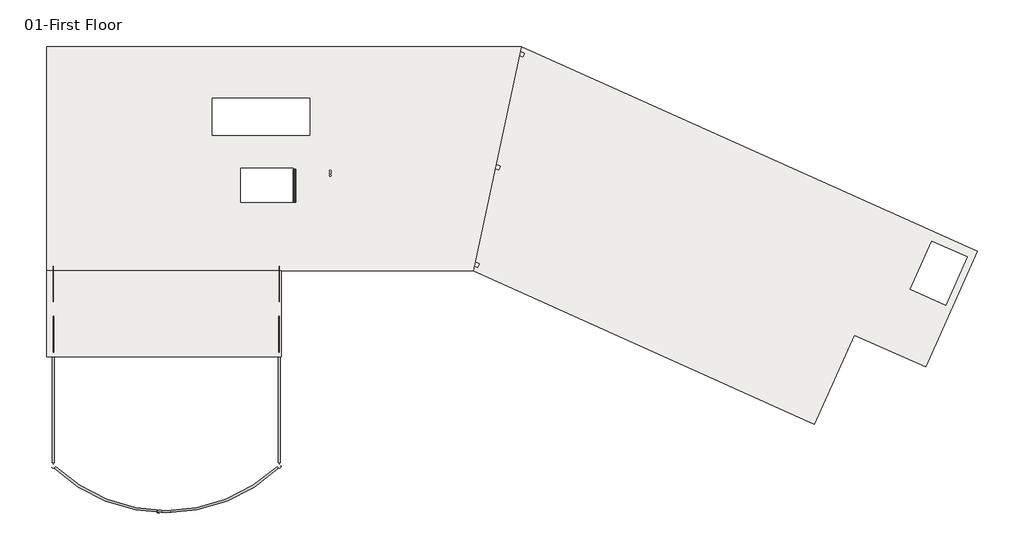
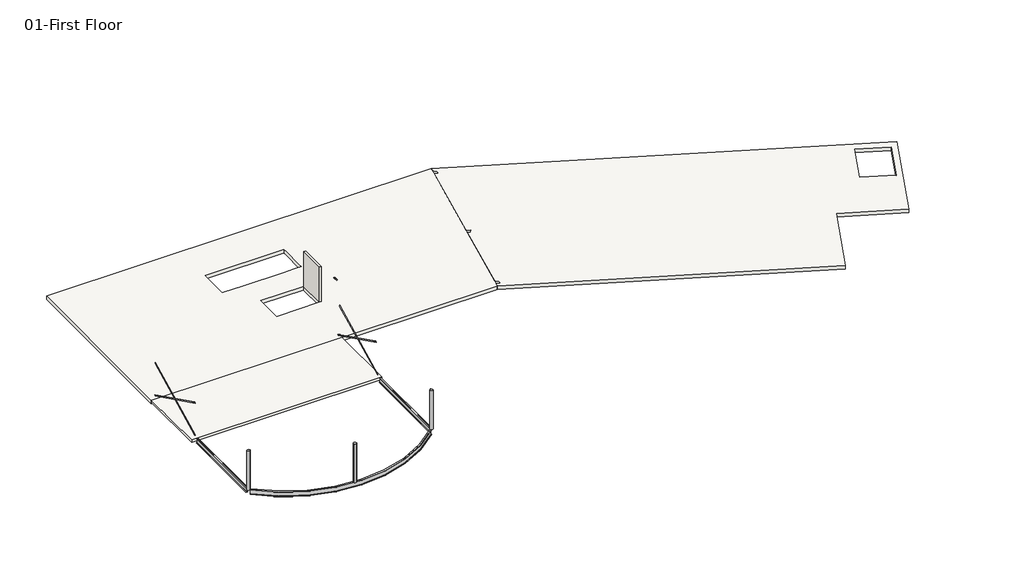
# One storey: 5 beams, 4 members, 3 columns, 3 slabs, 1 wall.
"""IFC4 building model written with IfcOpenShell, lengths in millimetres."""

from ifc_helpers import new_model, si_unit, frame, origin, place, context, project, spatial, polyline, circle_curve, outline, extrude, faceted_brep, transform, mapped, element, save
from ifc_brep_helpers import plane_surface, revolved_surface, advanced_brep
from components import w_shapes_w16x26_79f6515c, w_shapes_w16x26_bcd4aa5d, w_shapes_w16x26_ccd9a1e8, hss_round_column_hss10x_500_6a2b31e4, flat_bars_fl_3_8x4_8cd429a4, flat_bars_fl_3_8x4_80db56d9, flat_bars_fl_3_8x4_0a321cdc, flat_bars_fl_3_8x4_c289e923

model = new_model("IFC4")

# Units and contexts
model_context = context("Model", 3, world=origin())
ifc_project = project(units=[si_unit("LENGTHUNIT", "METRE", prefix="MILLI")], contexts=[model_context])

# Site, building, storey
site = spatial("IfcSite", under=ifc_project)
building = spatial("IfcBuilding", under=site)
storey = spatial("IfcBuildingStorey", under=building, Name="01-First Floor", Elevation=3352.8)

# Beams
placement = place(None, origin())
element("IfcBeam", 1, ObjectType="Concrete-Rectangular Beam : 12 x 24", at=placement, inside=storey, context=model_context, shape_type="SweptSolid", body=[
    extrude(outline(polyline([(152.4, -14147.8), (152.4, -13843.0), (6858.0, -13843.0), (6858.0, -14147.8), (152.4, -14147.8)])), frame((0.0, 0.0, 2743.2), z_axis=(0.0, 0.0, 1.0), x_axis=(1.0, 0.0, 0.0)), (0.0, 0.0, 1.0), 304.8),
])
element("IfcBeam", 2, ObjectType="Concrete-Rectangular Beam : 12 x 24", at=placement, inside=storey, context=model_context, shape_type="SweptSolid", body=[
    extrude(outline(polyline([(14846.3, -13843.0), (14846.3, -14147.8), (7162.8, -14147.8), (7162.8, -13843.0), (14846.3, -13843.0)])), frame((0.0, 0.0, 2743.2), z_axis=(0.0, 0.0, 1.0), x_axis=(1.0, 0.0, 0.0)), (0.0, 0.0, 1.0), 304.8),
])
w_shapes_w16x26_shape = w_shapes_w16x26_79f6515c(model_context)
element("IfcBeam", 3, ObjectType="W Shapes : W16X26", at=placement, inside=storey, context=model_context, shape_type="MappedRepresentation", body=[
    mapped(w_shapes_w16x26_shape, transform((14998.7, -27444.7, 3153.41), x_axis=(-0.7227923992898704, -0.691065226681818, 0.0), y_axis=(0.691065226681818, -0.7227923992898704, 0.0), z_axis=(0.0, 0.0, 1.0))),
])
w_shapes_w16x26_2_shape = w_shapes_w16x26_bcd4aa5d(model_context)
element("IfcBeam", 4, ObjectType="W Shapes : W16X26", at=placement, inside=storey, context=model_context, shape_type="MappedRepresentation", body=[
    mapped(w_shapes_w16x26_2_shape, transform((14998.7, -23723.6, 3153.41), x_axis=(0.0, -1.0, 0.0), y_axis=(1.0, 0.0, 0.0), z_axis=(0.0, 0.0, 1.0))),
])
w_shapes_w16x26_3_shape = w_shapes_w16x26_ccd9a1e8(model_context)
element("IfcBeam", 5, ObjectType="W Shapes : W16X26", at=placement, inside=storey, context=model_context, shape_type="MappedRepresentation", body=[
    mapped(w_shapes_w16x26_3_shape, transform((0.0, -23723.6, 3153.41), x_axis=(0.0, 1.0, 0.0), y_axis=(-1.0, 0.0, 0.0), z_axis=(0.0, 0.0, 1.0))),
])

# Columns
hss_round_column_hss10x_500_shape = hss_round_column_hss10x_500_6a2b31e4(model_context)
element("IfcColumn", 6, ObjectType="HSS Round-Column : HSS10X.500", at=placement, inside=storey, context=model_context, shape_type="MappedRepresentation", body=[
    mapped(hss_round_column_hss10x_500_shape, transform((0.0, -27444.7, 0.0), x_axis=(1.0, 0.0, 0.0), y_axis=(0.0, 1.0, 0.0), z_axis=(0.0, 0.0, 1.0))),
])
element("IfcColumn", 7, ObjectType="HSS Round-Column : HSS10X.500", at=placement, inside=storey, context=model_context, shape_type="MappedRepresentation", body=[
    mapped(hss_round_column_hss10x_500_shape, transform((7010.4, -30441.9, 0.0), x_axis=(1.0, 0.0, 0.0), y_axis=(0.0, 1.0, 0.0), z_axis=(0.0, 0.0, 1.0))),
])
element("IfcColumn", 8, ObjectType="HSS Round-Column : HSS10X.500", at=placement, inside=storey, context=model_context, shape_type="MappedRepresentation", body=[
    mapped(hss_round_column_hss10x_500_shape, transform((14998.7, -27444.7, 0.0), x_axis=(1.0, 0.0, 0.0), y_axis=(0.0, 1.0, 0.0), z_axis=(0.0, 0.0, 1.0))),
])

# Members
flat_bars_fl_3_8x4_shape = flat_bars_fl_3_8x4_8cd429a4(model_context)
element("IfcMember", 9, ObjectType="Flat Bars : FL 3/8X4", at=placement, inside=storey, context=model_context, shape_type="MappedRepresentation", body=[
    mapped(flat_bars_fl_3_8x4_shape, transform((14989.175, -16998.95, 4850.13), x_axis=(0.0, 0.8949563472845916, 0.44615371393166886), y_axis=(-1.0, 0.0, 0.0), z_axis=(0.0, -0.44615371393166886, 0.8949563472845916))),
])
flat_bars_fl_3_8x4_2_shape = flat_bars_fl_3_8x4_80db56d9(model_context)
element("IfcMember", 10, ObjectType="Flat Bars : FL 3/8X4", at=placement, inside=storey, context=model_context, shape_type="MappedRepresentation", body=[
    mapped(flat_bars_fl_3_8x4_2_shape, transform((14998.7, -16998.95, 4850.13), x_axis=(0.0, -0.8949563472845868, 0.4461537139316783), y_axis=(1.0, 0.0, 0.0), z_axis=(0.0, 0.4461537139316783, 0.8949563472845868))),
])
flat_bars_fl_3_8x4_3_shape = flat_bars_fl_3_8x4_0a321cdc(model_context)
element("IfcMember", 11, ObjectType="Flat Bars : FL 3/8X4", at=placement, inside=storey, context=model_context, shape_type="MappedRepresentation", body=[
    mapped(flat_bars_fl_3_8x4_3_shape, transform((9.525, -16998.95, 4850.13), x_axis=(0.0, 0.8949563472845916, 0.44615371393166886), y_axis=(-1.0, 0.0, 0.0), z_axis=(0.0, -0.44615371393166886, 0.8949563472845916))),
])
flat_bars_fl_3_8x4_4_shape = flat_bars_fl_3_8x4_c289e923(model_context)
element("IfcMember", 12, ObjectType="Flat Bars : FL 3/8X4", at=placement, inside=storey, context=model_context, shape_type="MappedRepresentation", body=[
    mapped(flat_bars_fl_3_8x4_4_shape, transform((0.0, -16998.95, 4850.13), x_axis=(0.0, -0.894956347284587, 0.44615371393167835), y_axis=(1.0, 0.0, 0.0), z_axis=(0.0, 0.44615371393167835, 0.894956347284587))),
])

# Slabs
element("IfcSlab", 13, ObjectType="RC Composite Slab 8\"", at=placement, inside=storey, context=model_context, shape_type="SweptSolid", body=[
    extrude(outline(polyline([(15151.1, -20154.9), (-457.2, -20154.9), (-457.2, -14452.6), (15151.1, -14452.6), (15151.1, -20154.9)])), frame((0.0, 0.0, 3149.6), z_axis=(0.0, 0.0, 1.0), x_axis=(1.0, 0.0, 0.0)), (0.0, 0.0, 1.0), 203.2),
])
element("IfcSlab", 14, ObjectType="RC Slab 12\"", at=placement, inside=storey, context=model_context, shape_type="AdvancedBrep", body=[
    advanced_brep(
    [(-457.2, 457.2, 3048.0), (31098.7387393, 457.2, 3048.0), (27903.7815965, -14452.6, 3048.0), (-457.2, -14452.6, 3048.0), (17030.7, -2984.5, 3048.0), (10553.7, -2984.5, 3048.0), (10553.7, -5422.9, 3048.0), (10858.5, -5422.9, 3048.0), (17030.7, -5422.9, 3048.0), (17030.7, -5118.1, 3048.0), (17030.7, -3289.3, 3048.0), (18347.8020543, -8109.4381113, 3048.0), (18449.4020543, -8109.4381113, 3048.0), (18347.8020543, -7957.0381113, 3048.0), (18449.4020543, -7957.0381113, 3048.0), (18347.8020543, -7804.6381113, 3048.0), (18449.4020543, -7804.6381113, 3048.0), (15951.2, -7633.3081651, 3048.0), (12446.0, -7633.3081651, 3048.0), (12446.0, -7683.5, 3048.0), (12446.0, -9893.3, 3048.0), (15951.2, -9893.3, 3048.0), (15951.2, -7683.5, 3048.0), (31098.7387393, 457.2, 3352.8), (-457.2, 457.2, 3352.8), (-457.2, -14452.6, 3352.8), (15151.1, -14452.6, 3352.8), (27903.7815965, -14452.6, 3352.8), (10553.7, -2984.5, 3352.8), (17030.7, -2984.5, 3352.8), (17030.7, -3289.3, 3352.8), (17030.7, -5118.1, 3352.8), (17030.7, -5422.9, 3352.8), (16522.7, -5422.9, 3352.8), (15608.3, -5422.9, 3352.8), (14389.1, -5422.9, 3352.8), (13474.7, -5422.9, 3352.8), (12242.8, -5422.9, 3352.8), (11328.4, -5422.9, 3352.8), (10553.7, -5422.9, 3352.8), (18449.4020543, -8109.4381113, 3352.8), (18347.8020543, -8109.4381113, 3352.8), (18449.4020543, -7957.0381113, 3352.8), (18347.8020543, -7957.0381113, 3352.8), (18449.4020543, -7804.6381113, 3352.8), (18347.8020543, -7804.6381113, 3352.8), (12446.0, -7633.3081651, 3352.8), (15951.2, -7633.3081651, 3352.8), (15951.2, -7683.5, 3352.8), (15951.2, -9893.3, 3352.8), (12446.0, -9893.3, 3352.8), (12446.0, -7683.5, 3352.8), (-457.2, -14452.6, 3149.6)],
    [
        (0, 1),
        (1, 2),
        (2, 3),
        (3, 0),
        (4, 5),
        (5, 6),
        (6, 7),
        (7, 8),
        (8, 9),
        (9, 10),
        (10, 4),
        (11, 12, circle_curve(frame((18398.6020543, -8109.4381113, 3048.0), z_axis=(0.0, 0.0, 1.0), x_axis=(1.0, 0.0, 0.0)), 50.8)),
        (12, 11, circle_curve(frame((18398.6020543, -8109.4381113, 3048.0), z_axis=(0.0, 0.0, 1.0), x_axis=(1.0, 0.0, 0.0)), 50.8)),
        (13, 14, circle_curve(frame((18398.6020543, -7957.0381113, 3048.0), z_axis=(0.0, 0.0, 1.0), x_axis=(1.0, 0.0, 0.0)), 50.8)),
        (14, 13, circle_curve(frame((18398.6020543, -7957.0381113, 3048.0), z_axis=(0.0, 0.0, 1.0), x_axis=(1.0, 0.0, 0.0)), 50.8)),
        (15, 16, circle_curve(frame((18398.6020543, -7804.6381113, 3048.0), z_axis=(0.0, 0.0, 1.0), x_axis=(1.0, 0.0, 0.0)), 50.8)),
        (16, 15, circle_curve(frame((18398.6020543, -7804.6381113, 3048.0), z_axis=(0.0, 0.0, 1.0), x_axis=(1.0, 0.0, 0.0)), 50.8)),
        (17, 18),
        (18, 19),
        (19, 20),
        (20, 21),
        (21, 22),
        (22, 17),
        (23, 24),
        (24, 25),
        (25, 26),
        (26, 27),
        (27, 23),
        (28, 29),
        (29, 30),
        (30, 31),
        (31, 32),
        (32, 33),
        (33, 34),
        (34, 35),
        (35, 36),
        (36, 37),
        (37, 38),
        (38, 39),
        (39, 28),
        (40, 41, circle_curve(frame((18398.6020543, -8109.4381113, 3352.8), z_axis=(0.0, 0.0, -1.0), x_axis=(1.0, 0.0, 0.0)), 50.8)),
        (41, 40, circle_curve(frame((18398.6020543, -8109.4381113, 3352.8), z_axis=(0.0, 0.0, -1.0), x_axis=(1.0, 0.0, 0.0)), 50.8)),
        (42, 43, circle_curve(frame((18398.6020543, -7957.0381113, 3352.8), z_axis=(0.0, 0.0, -1.0), x_axis=(1.0, 0.0, 0.0)), 50.8)),
        (43, 42, circle_curve(frame((18398.6020543, -7957.0381113, 3352.8), z_axis=(0.0, 0.0, -1.0), x_axis=(1.0, 0.0, 0.0)), 50.8)),
        (44, 45, circle_curve(frame((18398.6020543, -7804.6381113, 3352.8), z_axis=(0.0, 0.0, -1.0), x_axis=(1.0, 0.0, 0.0)), 50.8)),
        (45, 44, circle_curve(frame((18398.6020543, -7804.6381113, 3352.8), z_axis=(0.0, 0.0, -1.0), x_axis=(1.0, 0.0, 0.0)), 50.8)),
        (46, 47),
        (47, 48),
        (48, 49),
        (49, 50),
        (50, 51),
        (51, 46),
        (0, 24),
        (23, 1),
        (27, 2),
        (25, 52),
        (52, 3),
        (4, 29),
        (28, 5),
        (39, 6),
        (32, 8),
        (17, 47),
        (46, 18),
        (50, 20),
        (49, 21),
        (11, 41),
        (40, 12),
        (13, 43),
        (42, 14),
        (15, 45),
        (44, 16),
    ],
    [
        plane_surface(frame((0.0, 457.2, 3048.0), z_axis=(0.0, 0.0, -1.0), x_axis=(1.0, 0.0, 0.0))),
        plane_surface(frame((0.0, 457.2, 3352.8), z_axis=(0.0, 0.0, 1.0), x_axis=(-1.0, 0.0, 0.0))),
        plane_surface(frame((-457.2, 457.2, 3048.0), z_axis=(0.0, 1.0, 0.0), x_axis=(0.0, 0.0, 1.0))),
        plane_surface(frame((31098.7387393, 457.2, 3048.0), z_axis=(0.9778024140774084, -0.2095290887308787, 0.0), x_axis=(0.0, 0.0, 1.0))),
        plane_surface(frame((27903.7815965, -14452.6, 3048.0), z_axis=(0.0, -1.0, 0.0), x_axis=(0.0, 0.0, 1.0))),
        plane_surface(frame((-457.2, -14452.6, 3048.0), z_axis=(-1.0, 0.0, 0.0), x_axis=(0.0, 0.0, 1.0))),
        plane_surface(frame((17030.7, -2984.5, 4572.0), z_axis=(0.0, -1.0, 0.0), x_axis=(0.0, 0.0, -1.0))),
        plane_surface(frame((10553.7, -2984.5, 4572.0), z_axis=(1.0, 0.0, 0.0), x_axis=(0.0, 0.0, -1.0))),
        plane_surface(frame((10553.7, -5422.9, 4572.0), z_axis=(0.0, 1.0, 0.0), x_axis=(0.0, 0.0, -1.0))),
        plane_surface(frame((17030.7, -5422.9, 4572.0), z_axis=(-1.0, 0.0, 0.0), x_axis=(0.0, 0.0, -1.0))),
        plane_surface(frame((15951.2, -7633.3081651, 4572.0), z_axis=(0.0, -1.0, 0.0), x_axis=(0.0, 0.0, -1.0))),
        plane_surface(frame((12446.0, -7633.3081651, 4572.0), z_axis=(1.0, 0.0, 0.0), x_axis=(0.0, 0.0, -1.0))),
        plane_surface(frame((12446.0, -9893.3, 4572.0), z_axis=(0.0, 1.0, 0.0), x_axis=(0.0, 0.0, -1.0))),
        plane_surface(frame((15951.2, -9893.3, 4572.0), z_axis=(-1.0, 0.0, 0.0), x_axis=(0.0, 0.0, -1.0))),
        revolved_surface(polyline([(18449.4020543, -8109.4381113, 3352.8), (18449.4020543, -8109.4381113, 3048.0)]), (18398.6020543, -8109.4381113, 2743.2), (0.0, 0.0, 1.0)),
        revolved_surface(polyline([(18449.4020543, -7957.0381113, 3352.8), (18449.4020543, -7957.0381113, 3048.0)]), (18398.6020543, -7957.0381113, 2743.2), (0.0, 0.0, 1.0)),
        revolved_surface(polyline([(18449.4020543, -7804.6381113, 3352.8), (18449.4020543, -7804.6381113, 3048.0)]), (18398.6020543, -7804.6381113, 2743.2), (0.0, 0.0, 1.0)),
    ],
    [
        (0, [[1, 2, 3, 4], [5, 6, 7, 8, 9, 10, 11], [12, 13], [14, 15], [16, 17], [18, 19, 20, 21, 22, 23]]),
        (1, [[24, 25, 26, 27, 28], [29, 30, 31, 32, 33, 34, 35, 36, 37, 38, 39, 40], [41, 42], [43, 44], [45, 46], [47, 48, 49, 50, 51, 52]]),
        (2, [[-1, 53, -24, 54]]),
        (3, [[-2, -54, -28, 55]]),
        (4, [[-3, -55, -27, -26, 56, 57]]),
        (5, [[-4, -57, -56, -25, -53]]),
        (6, [[58, -29, 59, -5]]),
        (7, [[-59, -40, 60, -6]]),
        (8, [[-60, -39, -38, -37, -36, -35, -34, -33, 61, -8, -7]]),
        (9, [[-58, -11, -10, -9, -61, -32, -31, -30]]),
        (10, [[62, -47, 63, -18]]),
        (11, [[-63, -52, -51, 64, -20, -19]]),
        (12, [[-64, -50, 65, -21]]),
        (13, [[-62, -23, -22, -65, -49, -48]]),
        (14, [[66, -41, 67, -12]]),
        (14, [[-66, -13, -67, -42]]),
        (15, [[68, -43, 69, -14]]),
        (15, [[-68, -15, -69, -44]]),
        (16, [[70, -45, 71, -16]]),
        (16, [[-70, -17, -71, -46]]),
    ],
),
])
element("IfcSlab", 15, ObjectType="RC Slab 12\"", at=placement, inside=storey, context=model_context, shape_type="Brep", body=[
    faceted_brep([(61413.0546278, -13159.9258537, 3048.0), (57962.8673107, -20840.7, 3048.0), (53236.2370668, -18717.5078049, 3048.0), (50577.0429205, -24637.3804878, 3048.0), (27903.7815965, -14452.6, 3048.0), (27969.0988162, -14147.786308, 3048.0), (28217.3432689, -14259.3121951, 3048.0), (28342.2369275, -13981.275122, 3048.0), (28034.4045592, -13843.0124873, 3048.0), (29359.7488162, -7658.086308, 3048.0), (29607.9932689, -7769.6121951, 3048.0), (29732.8869275, -7491.575122, 3048.0), (29425.0545592, -7353.3124873, 3048.0), (30968.1131019, -152.386308, 3048.0), (31216.3575546, -263.9121951, 3048.0), (31341.2512132, 14.124878, 3048.0), (31033.4188449, 152.3875127, 3048.0), (31098.7387393, 457.2, 3048.0), (59309.9346278, -16726.0858537, 3048.0), (60746.211701, -13528.6595122, 3048.0), (58382.896579, -12467.0634146, 3048.0), (56946.6195059, -15664.4897561, 3048.0), (57962.8673107, -20840.7, 3352.8), (61413.0546278, -13159.9258537, 3352.8), (31098.7387393, 457.2, 3352.8), (31033.4244536, 152.4, 3352.8), (31341.2512132, 14.124878, 3352.8), (31216.3575546, -263.9121951, 3352.8), (30968.1131019, -152.386308, 3352.8), (29425.0601679, -7353.3, 3352.8), (29732.8869275, -7491.575122, 3352.8), (29607.9932689, -7769.6121951, 3352.8), (29359.7488162, -7658.086308, 3352.8), (28034.4101679, -13843.0, 3352.8), (28342.2369275, -13981.275122, 3352.8), (28217.3432689, -14259.3121951, 3352.8), (27969.0988162, -14147.786308, 3352.8), (27903.7815965, -14452.6, 3352.8), (50577.0429205, -24637.3804878, 3352.8), (53236.2370668, -18717.5078049, 3352.8), (60746.211701, -13528.6595122, 3352.8), (59309.9346278, -16726.0858537, 3352.8), (56946.6195059, -15664.4897561, 3352.8), (58382.896579, -12467.0634146, 3352.8)], [[[0, 1, 2, 3, 4, 5, 6, 7, 8, 9, 10, 11, 12, 13, 14, 15, 16, 17], [18, 19, 20, 21]], [[22, 23, 24, 25, 26, 27, 28, 29, 30, 31, 32, 33, 34, 35, 36, 37, 38, 39], [40, 41, 42, 43]], [[1, 0, 23, 22]], [[2, 1, 22, 39]], [[3, 2, 39, 38]], [[4, 3, 38, 37]], [[4, 37, 36, 5]], [[24, 17, 16, 25]], [[8, 33, 32, 9]], [[28, 13, 12, 29]], [[0, 17, 24, 23]], [[7, 34, 33, 8]], [[34, 7, 6, 35]], [[35, 6, 5, 36]], [[15, 26, 25, 16]], [[26, 15, 14, 27]], [[27, 14, 13, 28]], [[11, 30, 29, 12]], [[30, 11, 10, 31]], [[31, 10, 9, 32]], [[18, 41, 40, 19]], [[19, 40, 43, 20]], [[20, 43, 42, 21]], [[41, 18, 21, 42]]]),
])

# Wall
element("IfcWall", 16, ObjectType="6\" Blockwork with render", at=placement, inside=storey, context=model_context, shape_type="SweptSolid", body=[
    extrude(outline(polyline([(16103.6, -7683.5), (16103.6, -9893.3), (15951.2, -9893.3), (15951.2, -7683.5), (16103.6, -7683.5)])), frame((0.0, 0.0, 3352.8), z_axis=(0.0, 0.0, 1.0), x_axis=(1.0, 0.0, 0.0)), (0.0, 0.0, 1.0), 3048.0),
])

save(model, "model.ifc")
